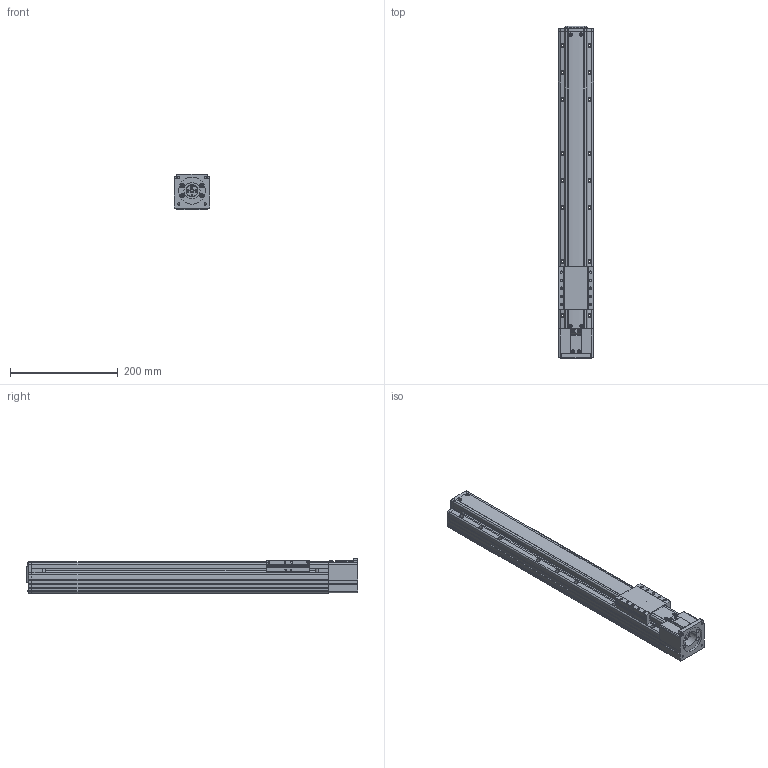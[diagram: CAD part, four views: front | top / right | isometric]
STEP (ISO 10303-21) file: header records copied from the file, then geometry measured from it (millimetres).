
FILE_DESCRIPTION(('STEP AP214'),'1');
FILE_NAME('Z:/Web/3D/PSA65/STP/PSA65-400 (3D)/PSA65ㅁㅁ-400S.stp','2014-06-25T04:52:40',(' '),(' '),'Spatial InterOp 3D',' ',' ');
FILE_SCHEMA(('automotive_design'));
Length unit declared in the file: millimetre
Products named in the file (80): SLIDE; RRCV-PA060; 1; 2; 3; 4; 5; 6; 7; 8; 9; 10; 11; 12; 13; 14; 15; 16; 17; 18; 19; 20; 21; 22; 23; 24; 25; 26; 27; 28; 29; 30; 31; 스크루 : Round - M3.0 x 8.0; RN8 x 0.75; SHAFT-SAN65; BASE; 스크루 : Round - M3.0 x 6.0; MTHZ - PSA65-60A; CPLCV-SAN45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
Bounding box: 65 x 614.8 x 65 mm (x, y, z)
Volume: 1893018.1 mm3; surface area: 274293.3 mm2
Topology: 80 solids, 80 shells, 2372 faces, 6277 edges, 4019 vertices
Faces by surface type: plane 1218, cylinder 764, cone 317, sphere 30, bspline 23, torus 20
Entity records: 95466 total; most frequent: CARTESIAN_POINT 15352, DIRECTION 12889, ORIENTED_EDGE 12310, EDGE_CURVE 6155, AXIS2_PLACEMENT_3D 4494, VERTEX_POINT 4019, LINE 3901, VECTOR 3901
